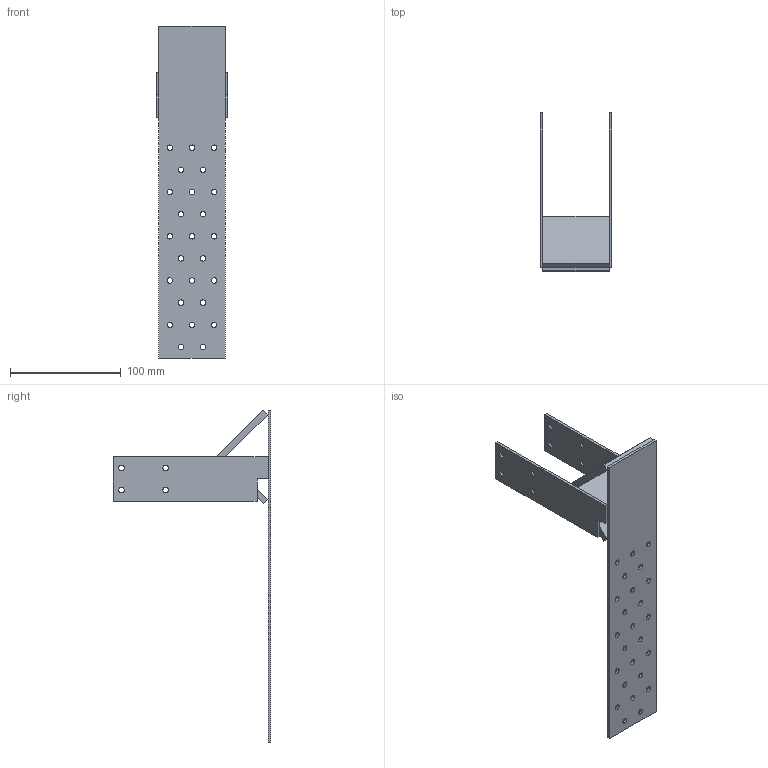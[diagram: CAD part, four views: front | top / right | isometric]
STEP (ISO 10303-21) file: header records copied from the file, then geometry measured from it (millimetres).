
FILE_DESCRIPTION (( 'STEP AP203' ), '1' );
FILE_NAME ('22100.STEP', '2021-05-21T05:09:05', ( '' ), ( '' ), 'SwSTEP 2.0', 'SolidWorks 2013', '' );
FILE_SCHEMA (( 'CONFIG_CONTROL_DESIGN' ));
Length unit declared in the file: millimetre
Products named in the file (4): PLSFH60; 22100; STSF40X140; PLWESF60
Assembly tree (4 placements, depth 2):
  22100
    PLSFH60
    PLWESF60
    STSF40X140  x2
Bounding box: 65 x 142.5 x 300 mm (x, y, z)
Volume: 111420.1 mm3; surface area: 76968 mm2
Topology: 4 solids, 4 shells, 96 faces, 264 edges, 176 vertices
Faces by surface type: cylinder 66, plane 30
Entity records: 3180 total; most frequent: DIRECTION 510, CARTESIAN_POINT 456, ORIENTED_EDGE 444, EDGE_CURVE 222, AXIS2_PLACEMENT_3D 202, VERTEX_POINT 148, EDGE_LOOP 138, CIRCLE 116
